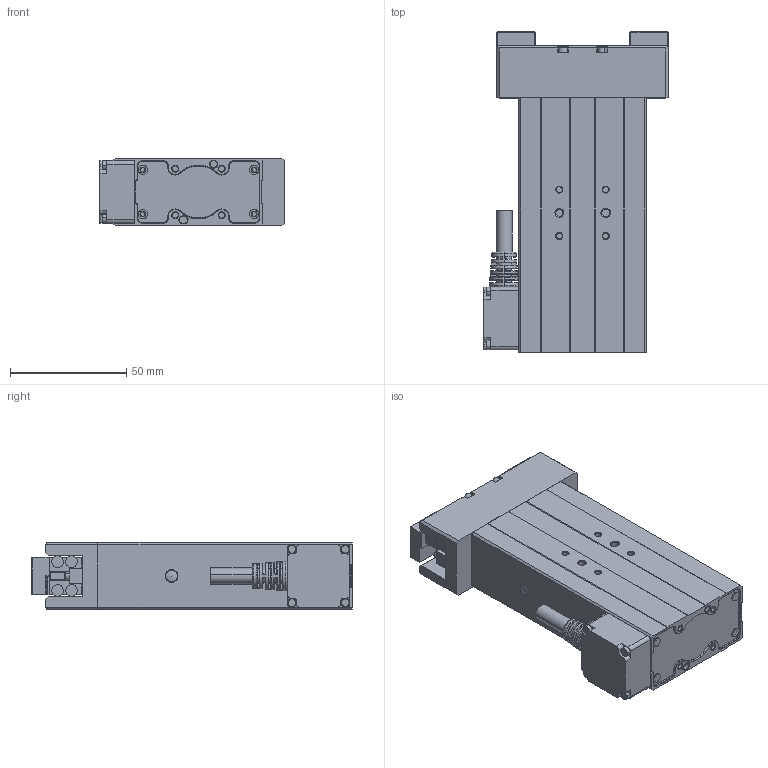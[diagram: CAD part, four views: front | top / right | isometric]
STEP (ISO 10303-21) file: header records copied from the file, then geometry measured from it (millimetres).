
FILE_DESCRIPTION (( 'STEP AP203' ), '1' );
FILE_NAME ('PGEA-100-40-W-剞攜郪璃.STEP', '2024-12-26T05:59:28', ( '' ), ( '' ), 'SwSTEP 2.0', 'SolidWorks 2020', '' );
FILE_SCHEMA (( 'CONFIG_CONTROL_DESIGN' ));
Length unit declared in the file: millimetre
Products named in the file (19): 衵價釱^PGEA-100-40-W-剞攜郪璃; 酘價釱^PGEA-100-40-W-剞攜郪璃; 复件 复件 复件 PGE-50新基座0.5模数^右基座_PGEA-100-40-W-虚拟组件; 复件 复件 复件 M2-2-5头-0.5厚^右基座_PGEA-100-40-W-虚拟组件; hexagon socket head cap screws gb._GB_FASTENER_SCREWS_HSHCS M2X8-N; 复件 复件 复件 PGE-50新基座0.5模数^左基座_PGEA-100-40-W-虚拟组件; PGEA-100-40-W-剞攜郪璃; LIGHT-PIPE; 复件 M2.5x25 头径3.8宽度2.5小圆柱头^电爪主体_PGEA-100-40-W-虚拟组件; hexagon socket head cap screws gb._GB_FASTENER_SCREWS_HSHCS M2X16-N; PGE50_Main cover; PGEA菁裔; 复件 M12-PGEA-普通网尾V2-20241122^电爪主体_PGEA-100-40-W-虚拟组件; 复件 M2-4-4头-0.5厚^电爪主体_PGEA-100-40-W-虚拟组件; 复件 挡片优化^电爪主体_PGEA-100-40-W-虚拟组件; 电爪主体^PGEA-100-40-W-虚拟组件; 复件 网尾安装件A-20241119^电爪主体_PGEA-100-40-W-虚拟组件; 复件 复件 复件 PGE-50U件连接板^电爪主体_PGEA-100-40-W-虚拟组件; 复件 复件 复件 M2-2-5头-0.5厚^左基座_PGEA-100-40-W-虚拟组件
Assembly tree (37 placements, depth 3):
  PGEA-100-40-W-剞攜郪璃
    衵價釱^PGEA-100-40-W-剞攜郪璃
      复件 复件 复件 PGE-50新基座0.5模数^右基座_PGEA-100-40-W-虚拟组件
      复件 复件 复件 M2-2-5头-0.5厚^右基座_PGEA-100-40-W-虚拟组件  x4
    酘價釱^PGEA-100-40-W-剞攜郪璃
      复件 复件 复件 PGE-50新基座0.5模数^左基座_PGEA-100-40-W-虚拟组件
      复件 复件 复件 M2-2-5头-0.5厚^左基座_PGEA-100-40-W-虚拟组件  x4
    电爪主体^PGEA-100-40-W-虚拟组件
      复件 复件 复件 PGE-50U件连接板^电爪主体_PGEA-100-40-W-虚拟组件
      hexagon socket head cap screws gb._GB_FASTENER_SCREWS_HSHCS M2X8-N  x4
      PGEA菁裔
      PGE50_Main cover
      LIGHT-PIPE
      hexagon socket head cap screws gb._GB_FASTENER_SCREWS_HSHCS M2X16-N  x4
      复件 M2.5x25 头径3.8宽度2.5小圆柱头^电爪主体_PGEA-100-40-W-虚拟组件  x4
      复件 M2-4-4头-0.5厚^电爪主体_PGEA-100-40-W-虚拟组件  x4
      复件 M12-PGEA-普通网尾V2-20241122^电爪主体_PGEA-100-40-W-虚拟组件
      复件 网尾安装件A-20241119^电爪主体_PGEA-100-40-W-虚拟组件
      复件 挡片优化^电爪主体_PGEA-100-40-W-虚拟组件  x2
Bounding box: 79.4 x 138 x 29 mm (x, y, z)
Volume: 226142.3 mm3; surface area: 52810.6 mm2
Topology: 34 solids, 34 shells, 1077 faces, 2491 edges, 1558 vertices
Faces by surface type: plane 477, cylinder 318, cone 201, torus 51, bspline 29, sphere 1
Entity records: 29295 total; most frequent: CARTESIAN_POINT 5636, DIRECTION 4578, ORIENTED_EDGE 4280, EDGE_CURVE 2140, AXIS2_PLACEMENT_3D 1666, VERTEX_POINT 1334, VECTOR 1246, LINE 1246
